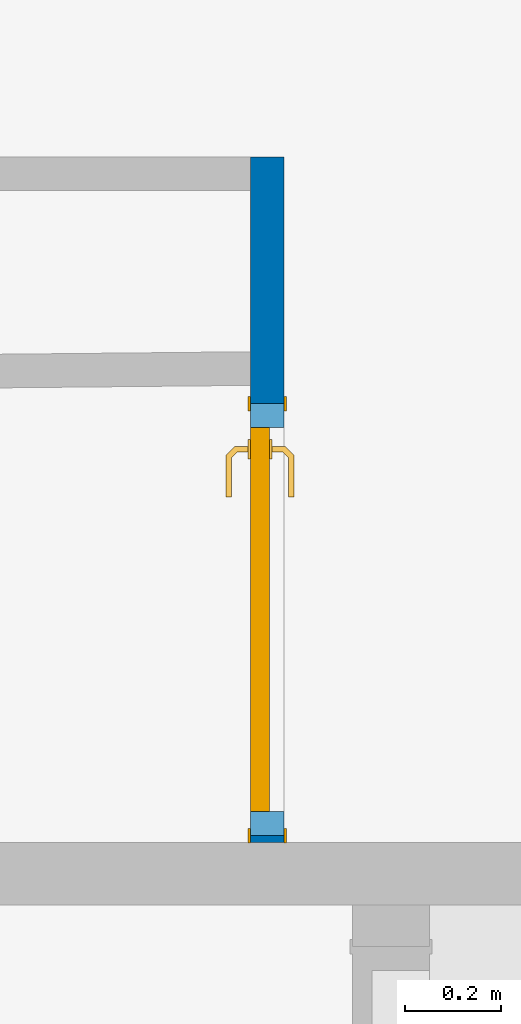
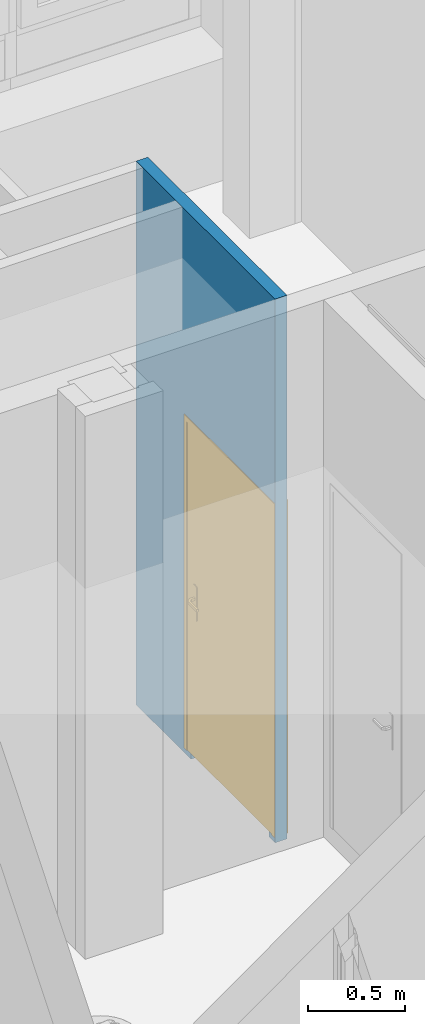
# One storey, part 32 of 65: 1 door, 1 wall, 2 openings.
"""IFC4 building model written with IfcOpenShell, lengths in metres."""

from ifc_helpers import new_model, entity, si_unit, converted_unit, derived_unit, direction, frame, origin, place, context, subcontext, project, spatial, indexed_curve, outline, extrude, polygons, source, transform, mapped, material, material_list, layer, layer_set, constituent, constituent_set, type_object, type_shapes, element, fill, save


model = new_model("IFC4")

# Units and contexts
model_context = context("Model", 3, precision=1e-05, world=origin(), true_north=direction((6.12303176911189e-17, 1.0)))
body_context = subcontext(model_context, "Body", "Model", "MODEL_VIEW")
ifc_project = project(units=[si_unit("LENGTHUNIT", "METRE"), si_unit("AREAUNIT", "SQUARE_METRE"), si_unit("VOLUMEUNIT", "CUBIC_METRE"), converted_unit("PLANEANGLEUNIT", "DEGREE", entity("IfcRatioMeasure", 0.0174532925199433), si_unit("PLANEANGLEUNIT", "RADIAN"), dimensions=[0, 0, 0, 0, 0, 0, 0]), si_unit("MASSUNIT", "GRAM", prefix="KILO"), derived_unit("MASSDENSITYUNIT", [(si_unit("MASSUNIT", "GRAM", prefix="KILO"), 1), (si_unit("LENGTHUNIT", "METRE"), -3)]), derived_unit("MOMENTOFINERTIAUNIT", [(si_unit("LENGTHUNIT", "METRE"), 4)]), si_unit("TIMEUNIT", "SECOND"), si_unit("FREQUENCYUNIT", "HERTZ"), si_unit("THERMODYNAMICTEMPERATUREUNIT", "DEGREE_CELSIUS"), derived_unit("THERMALTRANSMITTANCEUNIT", [(si_unit("MASSUNIT", "GRAM", prefix="KILO"), 1), (si_unit("THERMODYNAMICTEMPERATUREUNIT", "KELVIN"), -1), (si_unit("TIMEUNIT", "SECOND"), -3)]), derived_unit("VOLUMETRICFLOWRATEUNIT", [(si_unit("LENGTHUNIT", "METRE"), 3), (si_unit("TIMEUNIT", "SECOND"), -1)]), si_unit("ELECTRICCURRENTUNIT", "AMPERE"), si_unit("ELECTRICVOLTAGEUNIT", "VOLT"), si_unit("POWERUNIT", "WATT"), si_unit("FORCEUNIT", "NEWTON", prefix="KILO"), si_unit("ILLUMINANCEUNIT", "LUX"), si_unit("LUMINOUSFLUXUNIT", "LUMEN"), si_unit("LUMINOUSINTENSITYUNIT", "CANDELA"), derived_unit("USERDEFINED", [(si_unit("MASSUNIT", "GRAM", prefix="KILO"), -1), (si_unit("LENGTHUNIT", "METRE"), -2), (si_unit("TIMEUNIT", "SECOND"), 3), (si_unit("LUMINOUSFLUXUNIT", "LUMEN"), 1)]), derived_unit("LINEARVELOCITYUNIT", [(si_unit("LENGTHUNIT", "METRE"), 1), (si_unit("TIMEUNIT", "SECOND"), -1)]), si_unit("PRESSUREUNIT", "PASCAL"), derived_unit("USERDEFINED", [(si_unit("LENGTHUNIT", "METRE"), -2), (si_unit("MASSUNIT", "GRAM", prefix="KILO"), 1), (si_unit("TIMEUNIT", "SECOND"), -2)]), derived_unit("LINEARFORCEUNIT", [(si_unit("MASSUNIT", "GRAM", prefix="KILO"), 1), (si_unit("LENGTHUNIT", "METRE"), 1), (si_unit("TIMEUNIT", "SECOND"), -2), (si_unit("LENGTHUNIT", "METRE"), -1)]), derived_unit("PLANARFORCEUNIT", [(si_unit("MASSUNIT", "GRAM", prefix="KILO"), 1), (si_unit("LENGTHUNIT", "METRE"), 1), (si_unit("TIMEUNIT", "SECOND"), -2), (si_unit("LENGTHUNIT", "METRE"), -2)])], contexts=[model_context])

# Site, building, storey
site_placement = place(None, origin())
site = spatial("IfcSite", under=ifc_project, at=site_placement, Name="Default", CompositionType="ELEMENT")
building_placement = place(site_placement, origin())
building = spatial("IfcBuilding", under=site, at=building_placement, Name="HOTEL CONSULAIRE BOULOGNE SUR MER", CompositionType="ELEMENT")
storey_placement = place(building_placement, origin())
storey = spatial("IfcBuildingStorey", under=building, at=storey_placement, Name="Niveau 0", CompositionType="ELEMENT", Elevation=1.31981936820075e-13)

# Wall, openings, door
ifc_material_1 = material(Name="Mur par défaut", Category="Divers")
ifc_layer = layer(ifc_material_1, 0.07, Name="Mur par défaut", Category="Divers")
ifc_layer_set = layer_set([ifc_layer], Name="Mur de base:Int. Plâtre 70 mm")
wall_type = type_object("IfcWallType", Name="Mur de base:Int. Plâtre 70 mm", PredefinedType="NOTDEFINED", material=ifc_layer_set)
wall_placement = place(storey_placement, frame((-0.0356241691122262, -13.9478473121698, -0.0200000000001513), z_axis=(0.0, 0.0, 1.0), x_axis=(0.0, -1.0, 0.0)))
wall = element("IfcWall", 1, at=wall_placement, inside=storey, type_object=wall_type, material=ifc_layer_set, Name="Mur de base:Int. Plâtre 70 mm", ObjectType="Mur de base:Int. Plâtre 70 mm", PredefinedType="NOTDEFINED", context=body_context, shape_type="Tessellation", body=[
    polygons([(1.42739473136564, 0.035, -2.15727435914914e-16), (1.42739473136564, -0.035, -2.15727435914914e-16), (1.36339473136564, -0.035, -2.15727435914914e-16), (1.36339473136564, 0.035, -2.15727435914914e-16), (1.41339473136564, -0.0350000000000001, 0.0350000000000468), (1.41339473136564, 0.035, 0.0350000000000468), (1.36339473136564, 0.0350000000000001, 0.0350000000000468), (1.36339473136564, -0.0349999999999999, 0.0350000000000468), (1.41339473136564, -0.035, 2.11000000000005), (1.42739473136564, -0.035, 3.40652697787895), (0.0, -0.035, 3.40652697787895), (0.0, -0.035, 0.0350000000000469), (0.0, -0.035, -2.15727435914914e-16), (0.0699999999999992, -0.035, -2.15727435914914e-16), (0.405391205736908, -0.035, -2.15727435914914e-16), (0.475394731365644, -0.035, -2.15727435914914e-16), (0.563394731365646, -0.035, -2.15727435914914e-16), (0.563394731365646, -0.035, 0.0350000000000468), (0.513394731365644, -0.035, 0.0350000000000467), (0.513394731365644, -0.035, 2.11000000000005), (1.41339473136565, 0.035, 2.11000000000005), (0.513394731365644, 0.035, 2.11000000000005), (0.513394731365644, 0.035, 0.0350000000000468), (0.563394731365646, 0.035, 0.0350000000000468), (0.563394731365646, 0.035, -2.15727435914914e-16), (0.0, 0.035, -2.15727435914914e-16), (0.0, 0.035, 0.0350000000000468), (0.0, 0.035, 3.40652697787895), (1.42739473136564, 0.035, 3.40652697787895), (1.42739473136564, 0.035, 0.0350000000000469)], [[[2, 3, 4, 1]], [[14, 13, 26, 25, 17, 16, 15]], [[21, 9, 20, 22]], [[6, 7, 8, 5]], [[24, 23, 19, 18]], [[29, 28, 11, 10]], [[13, 14, 15, 16, 17, 18, 19, 20, 9, 5, 8, 3, 2, 10, 11, 12]], [[30, 1, 4, 7, 6, 21, 22, 23, 24, 25, 26, 27, 28, 29]], [[21, 6, 5, 9]], [[27, 26, 13, 12, 11, 28]], [[8, 7, 4, 3]], [[23, 22, 20, 19]], [[10, 2, 1, 30, 29]], [[18, 17, 25, 24]]], closed=True),
])
opening_1_placement = place(storey_placement, frame((-0.0356241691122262, -13.9478473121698, -0.0200000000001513), z_axis=(0.0, 0.0, 1.0), x_axis=(0.0, -1.0, 0.0)))
element("IfcOpeningElement", 2, at=opening_1_placement, cuts=wall, Name="Mur de base:Int. Plâtre 70 mm:1", ObjectType="Opening", PredefinedType="OPENING", context=body_context, shape_type="SweptSolid", body=[
    extrude(outline(indexed_curve([(-0.0175000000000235, -0.035), (0.0175000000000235, -0.035), (0.0175000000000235, 0.0350000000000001), (-0.0175000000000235, 0.035), (-0.0175000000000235, -0.035)], self_intersect=False)), frame((1.36339473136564, 0.0, 0.0175000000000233), z_axis=(-1.0, 0.0, 0.0), x_axis=(0.0, 0.0, 1.0)), (0.0, 0.0, 1.0), 0.799999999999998),
])
opening_2_placement = place(wall_placement, frame((1.41339473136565, 0.0349999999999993, 0.0350000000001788)))
opening_2 = element("IfcOpeningElement", 3, at=opening_2_placement, cuts=wall, Name="Int. Simple:PP (0.83m x 2.04m):1", ObjectType="Opening", PredefinedType="OPENING", context=body_context, shape_type="SweptSolid", body=[
    extrude(outline(indexed_curve([(0.0, 1.08286712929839e-15), (2.075, 1.08286712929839e-15), (2.075, 0.9), (0.0, 0.9), (0.0, 1.08286712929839e-15)], self_intersect=False)), frame((0.0, 0.0, 0.0), z_axis=(0.0, -1.0, 0.0), x_axis=(0.0, 0.0, 1.0)), (0.0, 0.0, 1.0), 0.07),
])
ifc_material_2 = material(Name="Finition Peinture - Blanc satiné", Category="Peinture")
ifc_constituent_1 = constituent(ifc_material_2, Name="Finition Peinture - Blanc satiné", Category="Matériaux")
ifc_material_3 = material(Name="Bois - Panneau de porte", Category="Bois")
ifc_constituent_2 = constituent(ifc_material_3, Name="Bois - Panneau de porte", Category="Matériaux")
ifc_material_4 = material(Name="Bois - Cadre de porte", Category="Bois")
ifc_constituent_3 = constituent(ifc_material_4, Name="Bois - Cadre de porte", Category="Matériaux")
ifc_constituent_set = constituent_set(constituents=[ifc_constituent_1, ifc_constituent_2, ifc_constituent_3], Name="MaterialConstituentSet")
ifc_material_list = material_list([ifc_material_3, ifc_material_2, ifc_material_4, ifc_material_4])
door_type = type_object("IfcDoorType", Name="Int. Simple:PP (0.83m x 2.04m)", OperationType="NOTDEFINED", PredefinedType="DOOR", material=ifc_material_list)
shared_shape = source(origin(), body_context, "Body", "Tessellation", [
    polygons([(0.0750000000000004, -0.00500000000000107, 0.870000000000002), (0.0846472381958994, -0.00500000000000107, 0.866003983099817), (0.0950000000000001, -0.00500000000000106, 0.86464101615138), (0.105352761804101, -0.00500000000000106, 0.866003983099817), (0.115, -0.00500000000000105, 0.870000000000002), (0.114999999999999, -0.00500000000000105, 1.08), (0.1053527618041, -0.00500000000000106, 1.08399601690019), (0.094999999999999, -0.00500000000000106, 1.08535898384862), (0.0846472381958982, -0.00500000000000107, 1.08399601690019), (0.0749999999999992, -0.00500000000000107, 1.08), (0.0749999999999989, -1.06594733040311e-15, 0.870000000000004), (0.0749999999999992, -1.06594733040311e-15, 1.08), (0.0846472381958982, -1.06171738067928e-15, 1.08399601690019), (0.094999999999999, -1.05748743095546e-15, 1.08535898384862), (0.1053527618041, -1.05325748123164e-15, 1.08399601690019), (0.114999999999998, -1.04902753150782e-15, 1.08), (0.115, -1.04902753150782e-15, 0.870000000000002), (0.105352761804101, -1.05325748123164e-15, 0.866003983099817), (0.0950000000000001, -1.05748743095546e-15, 0.86464101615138), (0.0846472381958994, -1.06171738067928e-15, 0.866003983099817)], [[[4, 5, 6, 7, 8, 9, 10, 1, 2, 3]], [[15, 16, 17, 18, 19, 20, 11, 12, 13, 14]], [[11, 20, 2, 1]], [[2, 20, 19, 3]], [[19, 18, 4, 3]], [[18, 17, 5, 4]], [[6, 5, 17, 16]], [[16, 15, 7, 6]], [[7, 15, 14, 8]], [[14, 13, 9, 8]], [[13, 12, 10, 9]], [[1, 10, 12, 11]]], closed=True),
    polygons([(0.114999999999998, 0.0399999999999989, 1.08), (0.105352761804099, 0.0399999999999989, 1.08399601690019), (0.0949999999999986, 0.0399999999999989, 1.08535898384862), (0.084647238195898, 0.0399999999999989, 1.08399601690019), (0.0749999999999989, 0.0399999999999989, 1.08), (0.0750000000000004, 0.0399999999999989, 0.870000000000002), (0.0846472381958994, 0.0399999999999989, 0.866003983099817), (0.0950000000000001, 0.0399999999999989, 0.86464101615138), (0.105352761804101, 0.0399999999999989, 0.866003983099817), (0.115, 0.0399999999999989, 0.870000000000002), (0.114999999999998, 0.0449999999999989, 1.08), (0.115, 0.0449999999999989, 0.870000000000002), (0.105352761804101, 0.0449999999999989, 0.866003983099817), (0.0950000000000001, 0.0449999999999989, 0.86464101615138), (0.0846472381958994, 0.0449999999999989, 0.866003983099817), (0.0749999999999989, 0.0449999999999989, 0.870000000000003), (0.0749999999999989, 0.0449999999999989, 1.08), (0.084647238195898, 0.0449999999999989, 1.08399601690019), (0.0949999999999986, 0.0449999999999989, 1.08535898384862), (0.105352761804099, 0.0449999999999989, 1.08399601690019)], [[[9, 10, 1, 2, 3, 4, 5, 6, 7, 8]], [[20, 11, 12, 13, 14, 15, 16, 17, 18, 19]], [[11, 20, 2, 1]], [[2, 20, 19, 3]], [[19, 18, 4, 3]], [[18, 17, 5, 4]], [[6, 5, 17, 16]], [[16, 15, 7, 6]], [[7, 15, 14, 8]], [[14, 13, 9, 8]], [[13, 12, 10, 9]], [[1, 10, 12, 11]]], closed=True),
    polygons([(0.0889999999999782, -0.00500000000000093, 1.007), (0.0929747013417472, -0.00500000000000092, 1.00778044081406), (0.0970252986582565, -0.0050000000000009, 1.00778044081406), (0.101000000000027, -0.00500000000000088, 1.00699999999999), (0.101000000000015, -0.00500000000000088, 0.993000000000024), (0.0970252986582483, -0.0050000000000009, 0.992219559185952), (0.0929747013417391, -0.00500000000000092, 0.99221955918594), (0.0889999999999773, -0.00500000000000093, 0.992999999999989), (0.0889999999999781, -0.0326509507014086, 1.007), (0.092974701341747, -0.0310045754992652, 1.00778044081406), (0.0970252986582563, -0.0293267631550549, 1.00778044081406), (0.101000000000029, -0.0276803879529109, 1.007), (0.101000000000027, -0.0276803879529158, 0.993000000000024), (0.0970252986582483, -0.0293267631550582, 0.992219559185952), (0.0929747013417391, -0.0310045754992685, 0.99221955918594), (0.0889999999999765, -0.0326509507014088, 0.992999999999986), (0.107377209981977, -0.0510281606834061, 1.007), (0.10902358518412, -0.0470534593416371, 1.00778044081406), (0.110701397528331, -0.0430028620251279, 1.00778044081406), (0.112347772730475, -0.0390281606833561, 1.007), (0.112347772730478, -0.0390281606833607, 0.993000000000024), (0.110701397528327, -0.0430028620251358, 0.992219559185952), (0.109023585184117, -0.0470534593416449, 0.99221955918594), (0.107377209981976, -0.0510281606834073, 0.992999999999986), (0.195018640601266, -0.0510281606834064, 1.00699999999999), (0.195018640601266, -0.0510281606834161, 0.992999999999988), (0.195018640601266, -0.0470534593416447, 0.99221955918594), (0.195018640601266, -0.0430028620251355, 0.992219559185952), (0.195018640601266, -0.039028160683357, 0.993000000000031), (0.195018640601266, -0.0390281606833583, 1.007), (0.195018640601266, -0.0430028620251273, 1.00778044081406), (0.195018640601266, -0.0470534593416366, 1.00778044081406), (0.147307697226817, -0.0510281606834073, 1.007), (0.152860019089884, -0.045028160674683, 1.0078786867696), (0.15368320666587, -0.039028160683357, 1.007), (0.147307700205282, -0.0510281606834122, 0.992999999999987), (0.152860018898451, -0.0450281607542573, 0.992121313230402), (0.153683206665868, -0.039028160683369, 0.993000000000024)], [[[2, 3, 4, 5, 6, 7, 8, 1]], [[21, 20, 35, 30, 29, 38]], [[9, 10, 2, 1]], [[10, 18, 19, 11, 3, 2]], [[11, 12, 4, 3]], [[5, 4, 12, 13]], [[26, 27, 28, 29, 30, 31, 32, 25]], [[13, 14, 6, 5]], [[14, 22, 23, 15, 7, 6]], [[15, 16, 8, 7]], [[1, 8, 16, 9]], [[17, 18, 10, 9]], [[19, 20, 12, 11]], [[13, 12, 20, 21]], [[21, 22, 14, 13]], [[23, 24, 16, 15]], [[9, 16, 24, 17]], [[33, 32, 34]], [[25, 32, 33]], [[18, 17, 33]], [[34, 35, 19]], [[20, 19, 35]], [[35, 31, 30]], [[32, 31, 34]], [[31, 35, 34]], [[18, 33, 34]], [[18, 34, 19]], [[38, 28, 37]], [[36, 37, 27]], [[21, 38, 22]], [[38, 29, 28]], [[26, 36, 27]], [[24, 23, 36]], [[36, 23, 37]], [[23, 22, 37]], [[22, 38, 37]], [[27, 37, 28]], [[17, 24, 36, 26, 25, 33]]], closed=True),
    polygons([(0.10100000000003, 0.0449999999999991, 0.993000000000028), (0.101000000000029, 0.0449999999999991, 1.007), (0.0970252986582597, 0.0449999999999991, 1.00778044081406), (0.0929747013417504, 0.0449999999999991, 1.00778044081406), (0.0889999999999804, 0.044999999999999, 1.007), (0.0889999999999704, 0.044999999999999, 0.992999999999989), (0.0929747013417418, 0.0449999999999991, 0.99221955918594), (0.0970252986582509, 0.0449999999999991, 0.992219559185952), (0.10100000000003, 0.067485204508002, 0.993000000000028), (0.10100000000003, 0.0674852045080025, 1.007), (0.0970252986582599, 0.0691315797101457, 1.00778044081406), (0.0929747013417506, 0.070809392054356, 1.00778044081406), (0.0889999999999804, 0.0724557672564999, 1.007), (0.0889999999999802, 0.072455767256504, 0.992999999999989), (0.0929747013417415, 0.0708093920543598, 0.99221955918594), (0.0970252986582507, 0.0691315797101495, 0.992219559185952), (0.112485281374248, 0.0789704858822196, 0.993000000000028), (0.112485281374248, 0.0789704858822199, 1.007), (0.110838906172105, 0.0829451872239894, 1.00778044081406), (0.109161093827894, 0.0869957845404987, 1.00778044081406), (0.107514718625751, 0.0909704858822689, 1.007), (0.107514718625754, 0.090970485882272, 0.992999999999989), (0.109161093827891, 0.0869957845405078, 0.99221955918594), (0.110838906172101, 0.0829451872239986, 0.992219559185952), (0.195045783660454, 0.0789704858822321, 0.993000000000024), (0.195045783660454, 0.0829451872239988, 0.992219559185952), (0.195045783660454, 0.086995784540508, 0.99221955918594), (0.195045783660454, 0.0909704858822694, 0.992999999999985), (0.195045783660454, 0.0909704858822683, 1.007), (0.195045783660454, 0.0869957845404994, 1.00778044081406), (0.195045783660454, 0.0829451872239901, 1.00778044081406), (0.195045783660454, 0.0789704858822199, 1.007), (0.147445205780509, 0.0909704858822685, 1.007), (0.152942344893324, 0.0849704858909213, 1.0078786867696), (0.153765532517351, 0.0789704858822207, 1.007), (0.147445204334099, 0.0909704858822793, 0.992999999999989), (0.152942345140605, 0.0849704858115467, 0.992121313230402), (0.153765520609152, 0.0789704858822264, 0.993000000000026)], [[[4, 5, 6, 7, 8, 1, 2, 3]], [[18, 17, 38, 25, 32, 35]], [[2, 1, 9, 10]], [[25, 26, 27, 28, 29, 30, 31, 32]], [[10, 11, 3, 2]], [[11, 19, 20, 12, 4, 3]], [[12, 13, 5, 4]], [[6, 5, 13, 14]], [[14, 15, 7, 6]], [[15, 23, 24, 16, 8, 7]], [[16, 9, 1, 8]], [[10, 9, 17, 18]], [[18, 19, 11, 10]], [[20, 21, 13, 12]], [[14, 13, 21, 22]], [[22, 23, 15, 14]], [[24, 17, 9, 16]], [[35, 31, 34]], [[33, 34, 30]], [[18, 35, 19]], [[35, 32, 31]], [[29, 33, 30]], [[21, 20, 33]], [[33, 20, 34]], [[20, 19, 34]], [[19, 35, 34]], [[30, 34, 31]], [[21, 33, 29, 28, 36, 22]], [[36, 27, 37]], [[28, 27, 36]], [[23, 22, 36]], [[37, 38, 24]], [[17, 24, 38]], [[38, 26, 25]], [[27, 26, 37]], [[26, 38, 37]], [[23, 36, 37]], [[23, 37, 24]]], closed=True),
    polygons([(0.034999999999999, 0.04, 2.04), (0.865, 0.04, 2.04), (0.864999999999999, 0.04, 0.0), (0.034999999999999, 0.04, 0.0), (0.034999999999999, 3.38395977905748e-17, 2.04), (0.034999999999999, 3.38395977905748e-17, 0.0), (0.864999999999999, 3.38395977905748e-17, 0.0), (0.865, 3.38395977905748e-17, 2.04)], [[[4, 1, 2, 3]], [[7, 8, 5, 6]], [[2, 1, 5, 8]], [[3, 2, 8, 7]], [[4, 3, 7, 6]], [[1, 4, 6, 5]]], closed=True),
    polygons([(-1.52954982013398e-14, 4.22994972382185e-18, 0.0), (-1.52954982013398e-14, 0.0699999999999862, 0.0), (0.0500000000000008, 0.0699999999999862, 0.0), (0.0500000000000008, 0.04, 0.0), (0.0349999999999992, 0.04, 0.0), (0.0349999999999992, 4.22994972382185e-18, 0.0), (-1.51601398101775e-14, 4.22994972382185e-18, 2.07500000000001), (-1.51601398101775e-14, 0.0699999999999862, 2.07500000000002), (0.900000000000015, 0.0699999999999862, 2.07500000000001), (0.900000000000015, 0.0699999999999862, 5.8808818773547e-24), (0.849999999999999, 0.0699999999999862, -4.86028664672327e-26), (0.849999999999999, 0.0699999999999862, 2.025), (0.0500000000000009, 0.0699999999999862, 2.025), (0.0500000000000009, 0.04, 2.025), (0.849999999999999, 0.04, 2.025), (0.849999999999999, 0.04, 1.99209647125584e-25), (0.865000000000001, 0.04, 1.51399295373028e-24), (0.865000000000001, 0.04, 2.04), (0.0349999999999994, 0.04, 2.04), (0.0349999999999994, 4.22994972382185e-18, 2.04), (0.865000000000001, 4.22994972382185e-18, 2.04), (0.865000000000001, 4.22994972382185e-18, -1.26556696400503e-24), (0.900000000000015, 4.22994972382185e-18, -3.95490676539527e-25), (0.900000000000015, 4.22994972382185e-18, 2.07500000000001)], [[[5, 6, 1, 2, 3, 4]], [[16, 11, 10, 23, 22, 17]], [[14, 13, 12, 15]], [[20, 19, 18, 21]], [[2, 1, 7, 8]], [[15, 12, 11, 16]], [[21, 18, 17, 22]], [[3, 2, 8, 9, 10, 11, 12, 13]], [[4, 3, 13, 14]], [[6, 5, 19, 20]], [[9, 24, 23, 10]], [[16, 17, 18, 19, 5, 4, 14, 15]], [[22, 23, 24, 7, 1, 6, 20, 21]], [[8, 7, 24, 9]]], closed=True),
    polygons([(0.0149999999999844, 0.0699999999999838, 1.35358391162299e-16), (-0.0150000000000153, 0.0699999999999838, 1.35358391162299e-16), (-0.0150000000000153, 0.0749999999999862, 1.35358391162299e-16), (0.0149999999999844, 0.0749999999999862, 1.35358391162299e-16), (0.0149999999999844, 0.0699999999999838, 2.06000000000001), (0.88499999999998, 0.0699999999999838, 2.06000000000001), (0.88499999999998, 0.0699999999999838, 4.03399441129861e-24), (0.91499999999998, 0.0699999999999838, -4.03399441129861e-24), (0.91499999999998, 0.0699999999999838, 2.09000000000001), (-0.0150000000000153, 0.0699999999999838, 2.09000000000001), (-0.0150000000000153, 0.0749999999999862, 2.09000000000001), (0.91499999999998, 0.0749999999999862, 2.09000000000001), (0.91499999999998, 0.0749999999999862, -4.03399441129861e-24), (0.88499999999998, 0.0749999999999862, 0.0), (0.88499999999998, 0.0749999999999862, 2.06000000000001), (0.0149999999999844, 0.0749999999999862, 2.06000000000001)], [[[2, 3, 4, 1]], [[14, 13, 8, 7]], [[5, 16, 15, 6]], [[7, 8, 9, 10, 2, 1, 5, 6]], [[3, 2, 10, 11]], [[6, 15, 14, 7]], [[4, 3, 11, 12, 13, 14, 15, 16]], [[1, 4, 16, 5]], [[12, 9, 8, 13]], [[11, 10, 9, 12]]], closed=True),
    polygons([(0.88499999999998, -0.00499999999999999, -1.35358391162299e-16), (0.88499999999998, -8.2484019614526e-16, -1.35358391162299e-16), (0.91499999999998, -8.2484019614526e-16, -1.35358391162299e-16), (0.91499999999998, -0.00499999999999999, -1.35358391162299e-16), (0.0149999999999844, -0.00499999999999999, 1.35358391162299e-16), (-0.0150000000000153, -0.00499999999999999, 1.35358391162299e-16), (-0.0150000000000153, -8.2484019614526e-16, 1.35358391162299e-16), (0.0149999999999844, -8.2484019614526e-16, 1.35358391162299e-16), (0.0149999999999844, -0.00499999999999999, 2.06000000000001), (0.88499999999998, -0.00499999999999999, 2.06000000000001), (0.91499999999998, -0.00499999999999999, 2.09000000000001), (-0.0150000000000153, -0.00499999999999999, 2.09000000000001), (-0.0150000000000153, -8.2484019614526e-16, 2.09000000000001), (0.91499999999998, -8.2484019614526e-16, 2.09000000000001), (0.88499999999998, -8.2484019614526e-16, 2.06000000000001), (0.0149999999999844, -8.2484019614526e-16, 2.06000000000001)], [[[2, 3, 4, 1]], [[6, 7, 8, 5]], [[9, 16, 15, 10]], [[1, 4, 11, 12, 6, 5, 9, 10]], [[7, 6, 12, 13]], [[10, 15, 2, 1]], [[8, 7, 13, 14, 3, 2, 15, 16]], [[5, 8, 16, 9]], [[14, 11, 4, 3]], [[13, 12, 11, 14]]], closed=True),
])
type_shapes(door_type, [shared_shape])
door_placement = place(opening_2_placement, frame((-0.9, -0.0700000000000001, 0.0)))
door = element("IfcDoor", 4, at=door_placement, inside=storey, type_object=door_type, material=ifc_constituent_set, Name="Int. Simple:PP (0.83m x 2.04m)", ObjectType="Int. Simple:PP (0.83m x 2.04m)", OperationType="NOTDEFINED", OverallHeight=2.075, OverallWidth=0.899999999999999, PredefinedType="DOOR", context=body_context, shape_type="MappedRepresentation", body=[
    mapped(shared_shape, transform((0.0, 0.0, 0.0), scale=1.0)),
])
fill(opening_2, door)

save(model, "model.ifc")
